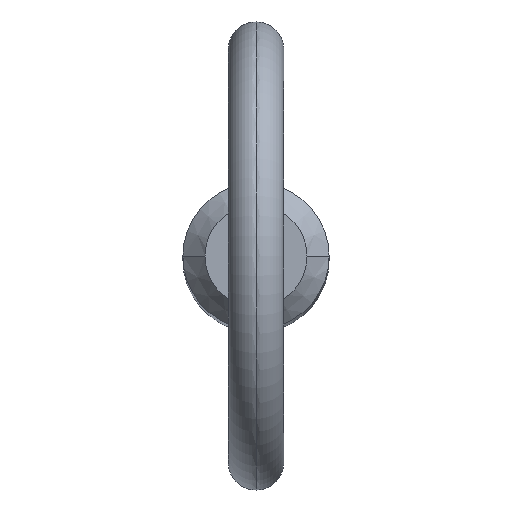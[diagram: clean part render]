
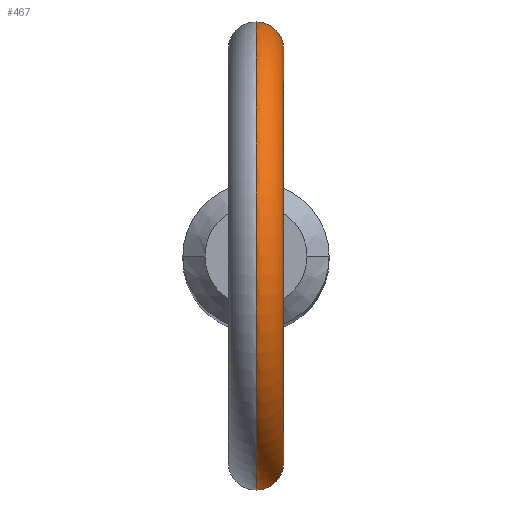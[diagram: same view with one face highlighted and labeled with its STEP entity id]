
A CAD part, top view. The second image highlights one B-rep face of the part: STEP entity #467.
In plain terms, the highlighted toroidal (fillet/blend) face has major radius 11.2 mm and minor radius 1.5 mm.
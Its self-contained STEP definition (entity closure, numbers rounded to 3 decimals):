
#1 = CARTESIAN_POINT ( 'NONE',  ( 1.471, -3.682, 88.194 ) ) ;
#29 = CARTESIAN_POINT ( 'NONE',  ( 0., 3.965, 87.035 ) ) ;
#31 = CARTESIAN_POINT ( 'NONE',  ( 0.411, 3.948, 90.191 ) ) ;
#33 = CARTESIAN_POINT ( 'NONE',  ( 0.102, -3.965, 90.247 ) ) ;
#35 = CARTESIAN_POINT ( 'NONE',  ( 1.185, 3.786, 89.56 ) ) ;
#40 = CARTESIAN_POINT ( 'NONE',  ( 0.206, 3.965, 90.247 ) ) ;
#42 = CARTESIAN_POINT ( 'NONE',  ( 0., -3.965, 87.035 ) ) ;
#54 = TOROIDAL_SURFACE ( 'NONE', #95, 11.2, 1.5 ) ;
#55 = DIRECTION ( 'NONE',  ( 1., 0., 0. ) ) ;
#75 = CARTESIAN_POINT ( 'NONE',  ( 1.499, 3.671, 88.394 ) ) ;
#78 = DIRECTION ( 'NONE',  ( 1., 0., 0. ) ) ;
#80 = CARTESIAN_POINT ( 'NONE',  ( 0.205, -3.961, 90.234 ) ) ;
#81 = CARTESIAN_POINT ( 'NONE',  ( 0.769, 3.894, 90.001 ) ) ;
#82 = CARTESIAN_POINT ( 'NONE',  ( 1.499, -3.671, 88.397 ) ) ;
#84 = CARTESIAN_POINT ( 'NONE',  ( 1.493, -3.673, 88.704 ) ) ;
#88 = CARTESIAN_POINT ( 'NONE',  ( 0.77, -3.894, 90. ) ) ;
#94 = EDGE_LOOP ( 'NONE', ( #454, #429, #222, #301 ) ) ;
#95 = AXIS2_PLACEMENT_3D ( 'NONE', #407, #330, #291 ) ;
#115 = CARTESIAN_POINT ( 'NONE',  ( 1.503, 3.669, 88.498 ) ) ;
#118 = CARTESIAN_POINT ( 'NONE',  ( 0., -3.965, 90.247 ) ) ;
#125 = CARTESIAN_POINT ( 'NONE',  ( 1.237, -3.77, 87.631 ) ) ;
#137 = CARTESIAN_POINT ( 'NONE',  ( 0., -3.965, 87.035 ) ) ;
#144 = B_SPLINE_CURVE_WITH_KNOTS ( 'NONE', 3,
 ( #153, #399, #510, #201, #470, #430, #240, #196, #243, #464, #503, #75, #115, #283, #394, #506, #35, #397, #81, #31, #40, #321 ),
 .UNSPECIFIED., .F., .F.,
 ( 4, 2, 2, 2, 2, 2, 2, 2, 2, 2, 4 ),
 ( 0.001, 0.001, 0.002, 0.002, 0.003, 0.003, 0.003, 0.004, 0.004, 0.005, 0.006 ),
 .UNSPECIFIED. ) ;
#148 = EDGE_CURVE ( 'NONE', #410, #489, #144, .T. ) ;
#153 = CARTESIAN_POINT ( 'NONE',  ( 0., 3.965, 87.035 ) ) ;
#196 = CARTESIAN_POINT ( 'NONE',  ( 1.236, 3.77, 87.629 ) ) ;
#200 = CARTESIAN_POINT ( 'NONE',  ( 0.693, -3.905, 87.19 ) ) ;
#201 = CARTESIAN_POINT ( 'NONE',  ( 0.691, 3.905, 87.189 ) ) ;
#204 = CARTESIAN_POINT ( 'NONE',  ( 0., 0., 99.1 ) ) ;
#207 = CARTESIAN_POINT ( 'NONE',  ( 0.404, -3.946, 90.182 ) ) ;
#209 = CARTESIAN_POINT ( 'NONE',  ( 1.447, -3.692, 88.093 ) ) ;
#222 = ORIENTED_EDGE ( 'NONE', *, *, #392, .F. ) ;
#235 = AXIS2_PLACEMENT_3D ( 'NONE', #300, #55, #413 ) ;
#240 = CARTESIAN_POINT ( 'NONE',  ( 1.026, 3.831, 87.413 ) ) ;
#243 = CARTESIAN_POINT ( 'NONE',  ( 1.344, 3.731, 87.803 ) ) ;
#247 = CARTESIAN_POINT ( 'NONE',  ( 1.434, -3.697, 89.005 ) ) ;
#248 = CARTESIAN_POINT ( 'NONE',  ( 1.503, -3.669, 88.499 ) ) ;
#262 = FACE_OUTER_BOUND ( 'NONE', #94, .T. ) ;
#283 = CARTESIAN_POINT ( 'NONE',  ( 1.488, 3.675, 88.805 ) ) ;
#285 = CARTESIAN_POINT ( 'NONE',  ( 0.925, -3.858, 89.868 ) ) ;
#287 = CARTESIAN_POINT ( 'NONE',  ( 0.409, -3.948, 87.074 ) ) ;
#288 = CARTESIAN_POINT ( 'NONE',  ( 0.205, -3.965, 87.035 ) ) ;
#291 = DIRECTION ( 'NONE',  ( 0., 0., -1. ) ) ;
#294 = AXIS2_PLACEMENT_3D ( 'NONE', #204, #78, #433 ) ;
#300 = CARTESIAN_POINT ( 'NONE',  ( 0., 0., 99.1 ) ) ;
#301 = ORIENTED_EDGE ( 'NONE', *, *, #417, .F. ) ;
#320 = CARTESIAN_POINT ( 'NONE',  ( 0.949, -3.851, 87.349 ) ) ;
#321 = CARTESIAN_POINT ( 'NONE',  ( 0., 3.965, 90.247 ) ) ;
#324 = CARTESIAN_POINT ( 'NONE',  ( 0.498, -3.935, 90.144 ) ) ;
#330 = DIRECTION ( 'NONE',  ( 1., 0., 0. ) ) ;
#331 = VERTEX_POINT ( 'NONE', #428 ) ;
#355 = CARTESIAN_POINT ( 'NONE',  ( 1.028, -3.83, 87.415 ) ) ;
#357 = CARTESIAN_POINT ( 'NONE',  ( 1.404, -3.708, 89.101 ) ) ;
#361 = CARTESIAN_POINT ( 'NONE',  ( 1.291, -3.75, 89.383 ) ) ;
#364 = CARTESIAN_POINT ( 'NONE',  ( 0.782, -3.888, 87.237 ) ) ;
#380 = CIRCLE ( 'NONE', #294, 9.7 ) ;
#392 = EDGE_CURVE ( 'NONE', #331, #450, #423, .T. ) ;
#394 = CARTESIAN_POINT ( 'NONE',  ( 1.441, 3.695, 89.008 ) ) ;
#397 = CARTESIAN_POINT ( 'NONE',  ( 0.927, 3.858, 89.867 ) ) ;
#398 = CARTESIAN_POINT ( 'NONE',  ( 1.186, -3.786, 89.559 ) ) ;
#399 = CARTESIAN_POINT ( 'NONE',  ( 0.204, 3.965, 87.035 ) ) ;
#400 = CARTESIAN_POINT ( 'NONE',  ( 1.479, -3.679, 88.807 ) ) ;
#407 = CARTESIAN_POINT ( 'NONE',  ( 0., 0., 99.1 ) ) ;
#410 = VERTEX_POINT ( 'NONE', #29 ) ;
#413 = DIRECTION ( 'NONE',  ( 0., 0., -1. ) ) ;
#417 = EDGE_CURVE ( 'NONE', #489, #331, #380, .T. ) ;
#423 = B_SPLINE_CURVE_WITH_KNOTS ( 'NONE', 3,
 ( #118, #33, #80, #207, #324, #88, #285, #398, #361, #357, #247, #400, #84, #248, #82, #1, #209, #512, #125, #355, #320, #364, #200, #287, #288, #42 ),
 .UNSPECIFIED., .F., .F.,
 ( 4, 2, 2, 2, 2, 2, 2, 2, 2, 2, 2, 2, 4 ),
 ( 0.004, 0.005, 0.005, 0.005, 0.006, 0.006, 0.007, 0.007, 0.007, 0.008, 0.008, 0.008, 0.009 ),
 .UNSPECIFIED. ) ;
#428 = CARTESIAN_POINT ( 'NONE',  ( 0., -3.965, 90.247 ) ) ;
#429 = ORIENTED_EDGE ( 'NONE', *, *, #437, .T. ) ;
#430 = CARTESIAN_POINT ( 'NONE',  ( 0.949, 3.851, 87.349 ) ) ;
#433 = DIRECTION ( 'NONE',  ( 0., 0., -1. ) ) ;
#437 = EDGE_CURVE ( 'NONE', #410, #450, #456, .T. ) ;
#450 = VERTEX_POINT ( 'NONE', #137 ) ;
#454 = ORIENTED_EDGE ( 'NONE', *, *, #148, .F. ) ;
#456 = CIRCLE ( 'NONE', #235, 12.7 ) ;
#464 = CARTESIAN_POINT ( 'NONE',  ( 1.447, 3.692, 88.093 ) ) ;
#467 = ADVANCED_FACE ( 'NONE', ( #262 ), #54, .T. ) ;
#470 = CARTESIAN_POINT ( 'NONE',  ( 0.782, 3.888, 87.237 ) ) ;
#478 = CARTESIAN_POINT ( 'NONE',  ( 0., 3.965, 90.247 ) ) ;
#489 = VERTEX_POINT ( 'NONE', #478 ) ;
#503 = CARTESIAN_POINT ( 'NONE',  ( 1.47, 3.682, 88.192 ) ) ;
#506 = CARTESIAN_POINT ( 'NONE',  ( 1.291, 3.75, 89.384 ) ) ;
#510 = CARTESIAN_POINT ( 'NONE',  ( 0.41, 3.948, 87.074 ) ) ;
#512 = CARTESIAN_POINT ( 'NONE',  ( 1.346, -3.73, 87.808 ) ) ;
